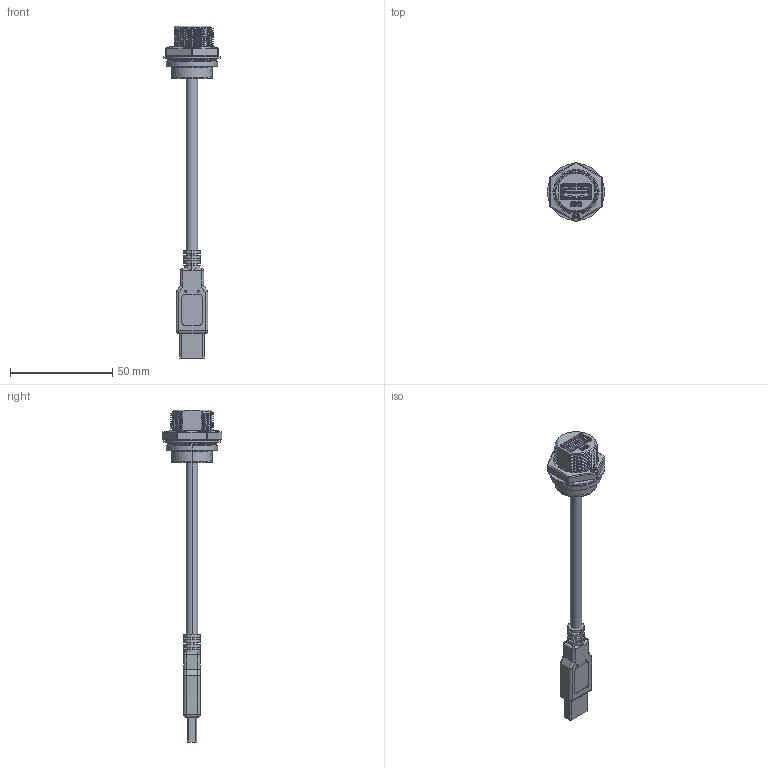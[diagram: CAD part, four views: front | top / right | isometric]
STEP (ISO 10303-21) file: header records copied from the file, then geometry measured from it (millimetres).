
FILE_DESCRIPTION (( 'STEP AP203' ), '1' );
FILE_NAME ('GT218300-02-XX.STEP', '2016-01-18T03:00:47', ( '' ), ( '' ), 'SwSTEP 2.0', 'SolidWorks 2012', '' );
FILE_SCHEMA (( 'CONFIG_CONTROL_DESIGN' ));
Length unit declared in the file: millimetre
Products named in the file (17): GT218300-02-XX; RR-AS; USB-A PLUG SHORT; AS; Cable 5.5; 65225-X0010_01; 66225-00020; 67225-00110; GT118 GLUE; 58225-22002; 93118-01001; 83002-F3201; 83002(PIN); 83002(BASE); 83002(FRAM); 59118-01002; 60218-3ZA01
Assembly tree (19 placements, depth 4):
  GT218300-02-XX
    60218-3ZA01
    93118-01001
      59118-01002
      83002-F3201
        83002(FRAM)
        83002(BASE)
        83002(PIN)  x4
    58225-22002
    GT118 GLUE
    67225-00110
    66225-00020
    65225-X0010_01
    Cable 5.5
    RR-AS
      AS
      USB-A PLUG SHORT
Bounding box: 28 x 29.17 x 162.1 mm (x, y, z)
Volume: 12919.7 mm3; surface area: 15101.7 mm2
Topology: 16 solids, 16 shells, 1425 faces, 3846 edges, 2459 vertices
Faces by surface type: plane 816, cylinder 418, bspline 131, cone 23, sphere 20, torus 17
Entity records: 81154 total; most frequent: CARTESIAN_POINT 47839, ORIENTED_EDGE 7224, DIRECTION 5763, EDGE_CURVE 3612, VERTEX_POINT 2313, LINE 2071, VECTOR 2071, AXIS2_PLACEMENT_3D 1846
